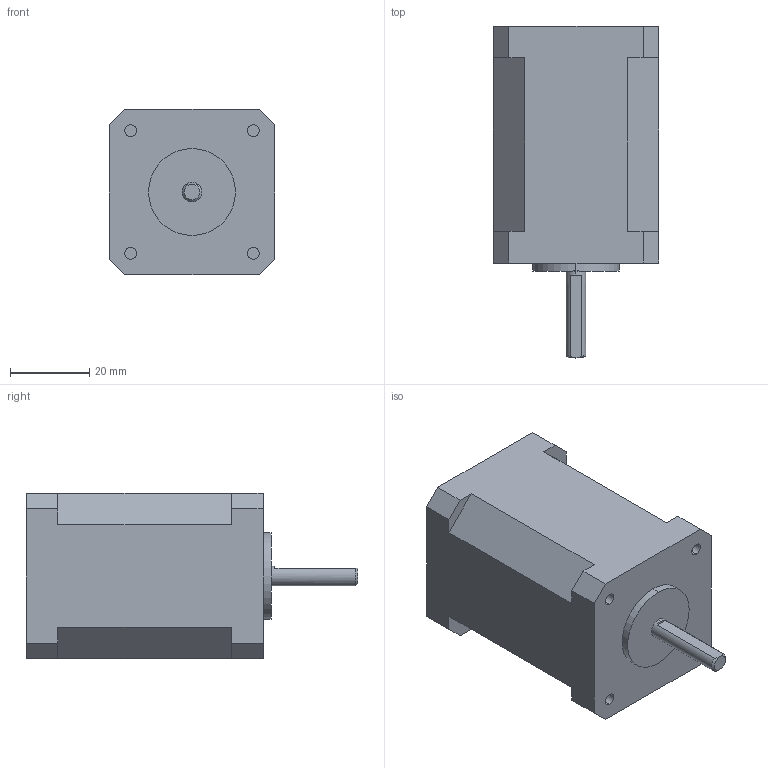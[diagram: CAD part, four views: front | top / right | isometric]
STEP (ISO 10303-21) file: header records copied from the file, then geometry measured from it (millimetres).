
FILE_DESCRIPTION (( 'STEP AP203' ), '1' );
FILE_NAME ('42BG60 贝格达、前径5长24扁21厚4.5、散线0.STEP', '2024-10-13T14:10:42', ( '' ), ( '' ), 'SwSTEP 2.0', 'SolidWorks 2022', '' );
FILE_SCHEMA (( 'CONFIG_CONTROL_DESIGN' ));
Length unit declared in the file: millimetre
Products named in the file (1): 42BG60    贝格达、前径5长24扁21厚4.5、散线0
Bounding box: 42 x 84 x 42 mm (x, y, z)
Volume: 100639.1 mm3; surface area: 13537.8 mm2
Topology: 1 solids, 1 shells, 48 faces, 118 edges, 78 vertices
Faces by surface type: plane 34, cylinder 12, cone 2
Entity records: 1499 total; most frequent: CARTESIAN_POINT 257, DIRECTION 242, ORIENTED_EDGE 236, EDGE_CURVE 118, LINE 88, VECTOR 88, VERTEX_POINT 78, AXIS2_PLACEMENT_3D 77
